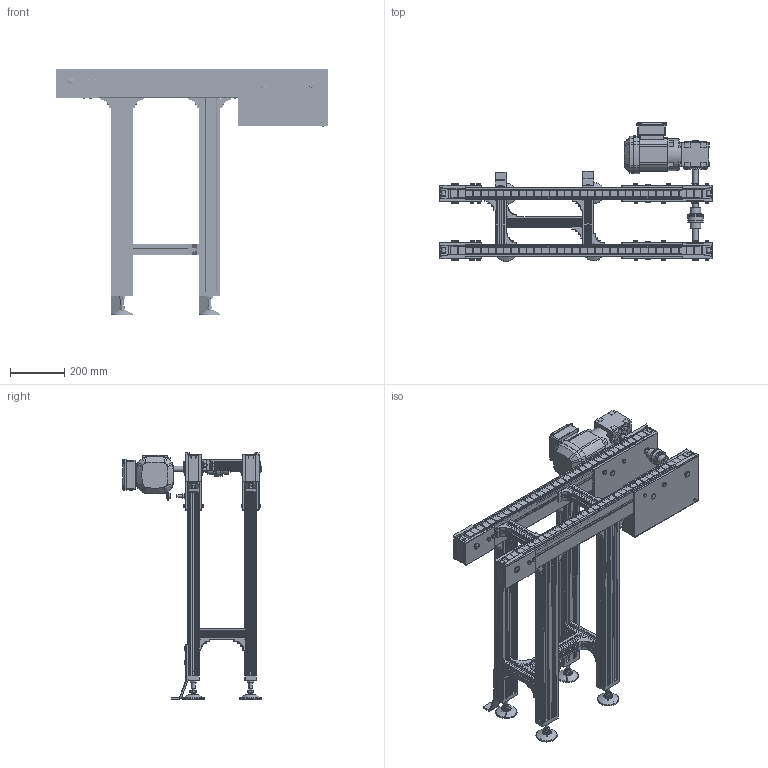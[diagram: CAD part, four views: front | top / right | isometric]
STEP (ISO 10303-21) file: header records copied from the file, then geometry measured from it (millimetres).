
FILE_DESCRIPTION(/* description */ (''),/* implementation_level */ '2;1');
FILE_NAME(/* name */ 'C:\Marketing\01_Versamove-SPU_STEP-Dateien-Homepage\VersamoveStandard\B240\STEP-Dateien\Flachplattenförderer_FPF-P-2045_B240_L1000.stp',/* time_stamp */ '2016-12-15T15:12:34+01:00',/* author */ ('herbert.engels'),/* organization */ (''),/* preprocessor_version */ 'ST-DEVELOPER v15.6',/* originating_system */ 'Autodesk Inventor 2015',/* authorisation */ '');
FILE_SCHEMA (('CONFIG_CONTROL_DESIGN'));
Products named in the file (1): Flachplattenbandförderer_Standard_B240_L1000
Bounding box: 1000.5 x 510.57 x 905.3 mm (x, y, z)
Volume: 18507507.5 mm3; surface area: 4589602.1 mm2
Topology: 5 solids, 5 shells, 5392 faces, 14898 edges, 9578 vertices
Faces by surface type: plane 3532, cylinder 1321, cone 350, torus 123, sphere 50, bspline 16
Full cylindrical faces by diameter (mm): 2 x8, 6 x13, 6.647 x8, 7.323 x4, 8 x60, 8.7 x4, 9 x8, 10 x4, 10.066 x1, 11.4 x20, 12 x8, 13 x70, 13.6 x8, 14 x40, 15 x8, 18 x4, 19 x4, 19.77 x4, 20 x17, 25 x1, 25.05 x4, 28 x1, 30 x2, 40 x2, 53 x1, 54 x2, 56 x3, 79 x4, 117 x1
Entity records: 176864 total; most frequent: CARTESIAN_POINT 34844, ORIENTED_EDGE 28534, DIRECTION 27456, EDGE_CURVE 14259, LINE 10032, VECTOR 10032, VERTEX_POINT 9423, AXIS2_PLACEMENT_3D 8712
